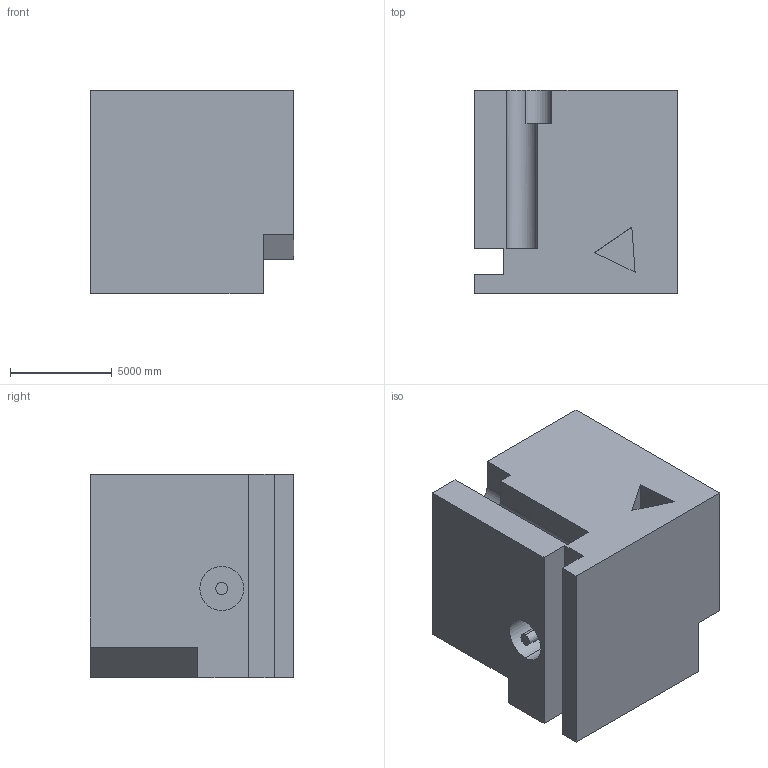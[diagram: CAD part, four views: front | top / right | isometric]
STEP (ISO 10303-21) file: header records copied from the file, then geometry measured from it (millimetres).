
FILE_DESCRIPTION (( 'STEP AP203' ), '1' );
FILE_NAME ('342.STEP', '2022-09-07T13:01:18', ( 'user' ), ( '' ), 'SwSTEP 2.0', 'SolidWorks 2021', '' );
FILE_SCHEMA (( 'CONFIG_CONTROL_DESIGN' ));
Length unit declared in the file: centimetre
Products named in the file (1): 342
Bounding box: 10000 x 10000 x 10000 mm (x, y, z)
Volume: 883346744180.8 mm3; surface area: 734412892.8 mm2
Topology: 1 solids, 1 shells, 36 faces, 90 edges, 60 vertices
Faces by surface type: plane 30, cylinder 6
Entity records: 1144 total; most frequent: CARTESIAN_POINT 187, ORIENTED_EDGE 180, DIRECTION 177, EDGE_CURVE 90, LINE 77, VECTOR 77, VERTEX_POINT 60, AXIS2_PLACEMENT_3D 50
